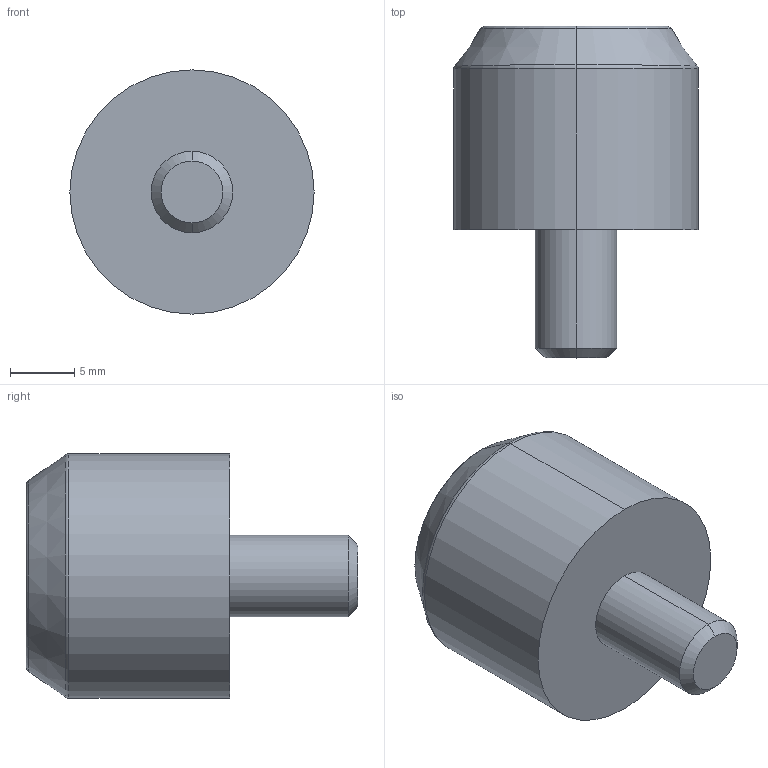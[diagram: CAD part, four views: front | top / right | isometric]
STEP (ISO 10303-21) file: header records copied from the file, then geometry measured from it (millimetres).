
FILE_DESCRIPTION (( 'STEP AP214' ), '1' );
FILE_NAME ('SE-.750-.125-S-A.STEP', '2014-06-19T18:38:23', ( 'admin' ), ( '' ), 'SwSTEP 2.0', 'SolidWorks 2011', '' );
FILE_SCHEMA (( 'AUTOMOTIVE_DESIGN' ));
Length unit declared in the file: inch
Products named in the file (1): SE-.750-.125-S-A
Bounding box: 19.05 x 25.88 x 19.05 mm (x, y, z)
Volume: 4211 mm3; surface area: 1776.2 mm2
Topology: 1 solids, 1 shells, 25 faces, 52 edges, 32 vertices
Faces by surface type: plane 11, cylinder 6, cone 4, torus 4
Entity records: 706 total; most frequent: DIRECTION 128, CARTESIAN_POINT 110, ORIENTED_EDGE 104, EDGE_CURVE 52, AXIS2_PLACEMENT_3D 50, VERTEX_POINT 32, LINE 28, EDGE_LOOP 28
